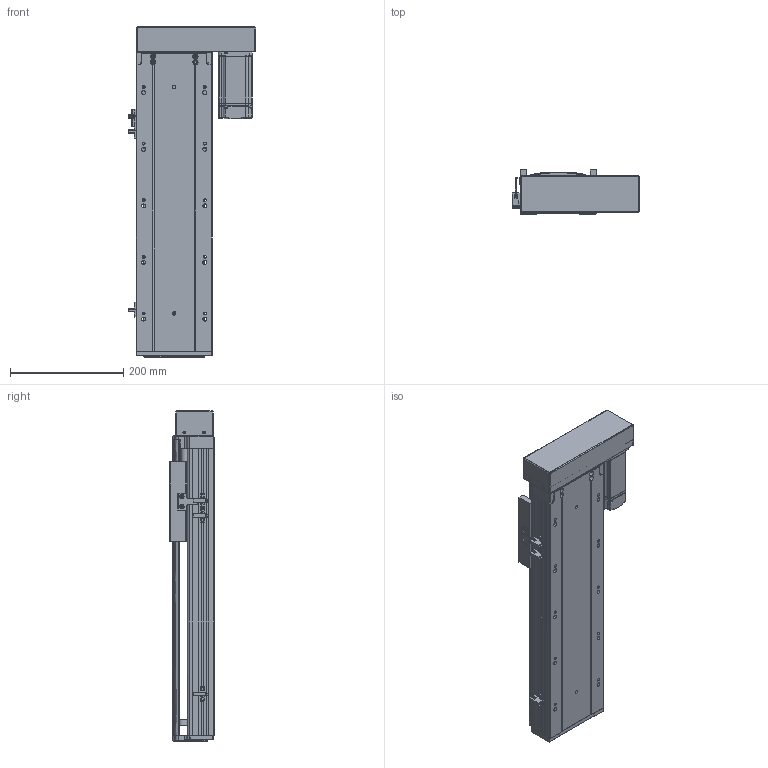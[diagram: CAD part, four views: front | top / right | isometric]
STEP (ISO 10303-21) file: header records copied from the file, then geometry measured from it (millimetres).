
FILE_DESCRIPTION (( 'STEP AP203' ), '1' );
FILE_NAME ('RY140-L1620-300-RK.SLDASM_300.step', '2021-02-22T02:53:58', ( '盈信电脑' ), ( '东莞市道滘镇水果街19号' ), 'SwSTEP 2.0', 'SolidWorks 2012', '' );
FILE_SCHEMA (( 'CONFIG_CONTROL_DESIGN' ));
Length unit declared in the file: millimetre
Products named in the file (14): RY140-L1620-300-RK.SLDASM_300; RY120外置感应片(140共用）; 覜茼ん672; 侂狟400W侜督萇儂; 15; RY140酘衵殏萇儂欶; RY140转折电机端支撑座; 滅袉蝶18-10; RY140蛌殏萇儂假蚾啣; RY140綴裔啣; RY140臏賑輸; RY140-300蛌殏倰第奻裔啣-RK; 滅袉蝶18-24; RY140-300蛌殏倰第菁釱-RK
Assembly tree (16 placements, depth 3):
  RY140-L1620-300-RK.SLDASM_300
    RY140-300蛌殏倰第菁釱-RK
    RY140臏賑輸
    RY140-300蛌殏倰第奻裔啣-RK
    RY140綴裔啣
    滅袉蝶18-24  x2
    滅袉蝶18-10
    RY140转折电机端支撑座
    RY140蛌殏萇儂假蚾啣
    侂狟400W侜督萇儂
      15
    RY140酘衵殏萇儂欶
    覜茼ん672  x3
    RY120外置感应片(140共用）
Bounding box: 225.2 x 78 x 583 mm (x, y, z)
Volume: 2329002 mm3; surface area: 808808.2 mm2
Topology: 15 solids, 15 shells, 2203 faces, 6068 edges, 3902 vertices
Faces by surface type: plane 1174, cylinder 770, cone 166, bspline 93
Entity records: 69647 total; most frequent: CARTESIAN_POINT 16925, ORIENTED_EDGE 10896, DIRECTION 10289, EDGE_CURVE 5448, VERTEX_POINT 3570, VECTOR 3553, LINE 3553, AXIS2_PLACEMENT_3D 3368
